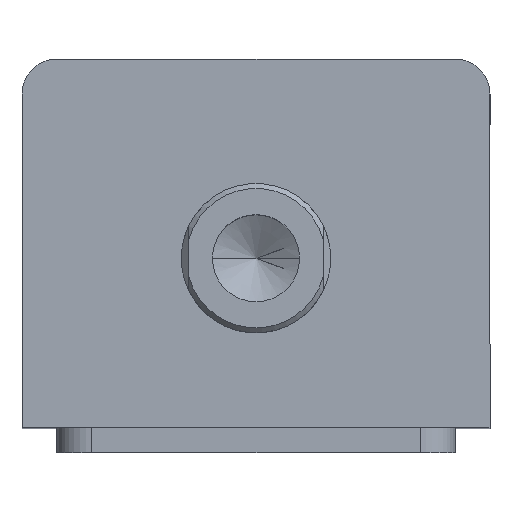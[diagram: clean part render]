
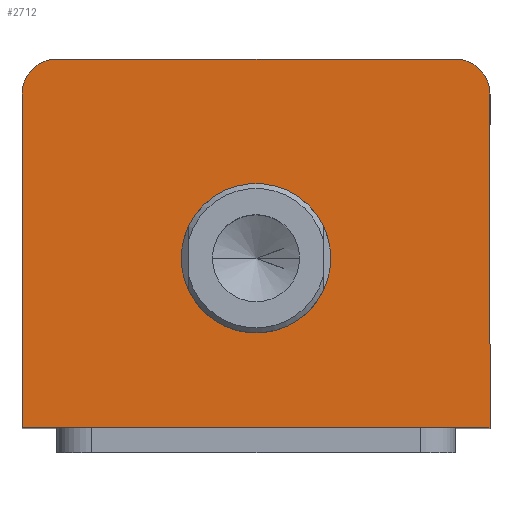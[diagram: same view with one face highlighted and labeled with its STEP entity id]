
A CAD part, top view. The second image highlights one B-rep face of the part: STEP entity #2712.
In plain terms, the highlighted planar face has unit normal (0, 0, 1).
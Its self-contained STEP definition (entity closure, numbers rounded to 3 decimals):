
#196 = EDGE_LOOP ( 'NONE', ( #2648, #2647 ) ) ;
#200 = EDGE_LOOP ( 'NONE', ( #2646, #2645, #2644, #2643, #2642, #2640 ) ) ;
#229 = VERTEX_POINT ( 'NONE', #747 ) ;
#245 = VERTEX_POINT ( 'NONE', #730 ) ;
#249 = VERTEX_POINT ( 'NONE', #726 ) ;
#252 = VERTEX_POINT ( 'NONE', #723 ) ;
#266 = VERTEX_POINT ( 'NONE', #708 ) ;
#289 = VERTEX_POINT ( 'NONE', #685 ) ;
#291 = VERTEX_POINT ( 'NONE', #683 ) ;
#300 = VERTEX_POINT ( 'NONE', #674 ) ;
#674 = CARTESIAN_POINT ( 'NONE',  ( 47., -37., 130. ) ) ;
#683 = CARTESIAN_POINT ( 'NONE',  ( -15., -3., 130. ) ) ;
#685 = CARTESIAN_POINT ( 'NONE',  ( 15., -3., 130. ) ) ;
#708 = CARTESIAN_POINT ( 'NONE',  ( 47., 30., 130. ) ) ;
#723 = CARTESIAN_POINT ( 'NONE',  ( 40., 37., 130. ) ) ;
#726 = CARTESIAN_POINT ( 'NONE',  ( -40., 37., 130. ) ) ;
#730 = CARTESIAN_POINT ( 'NONE',  ( -47., 30., 130. ) ) ;
#747 = CARTESIAN_POINT ( 'NONE',  ( -47., -37., 130. ) ) ;
#853 = LINE ( 'NONE', #1370, #856 ) ;
#856 = VECTOR ( 'NONE', #1363, 1000. ) ;
#898 = CIRCLE ( 'NONE', #1747, 15. ) ;
#967 = LINE ( 'NONE', #1332, #975 ) ;
#975 = VECTOR ( 'NONE', #1324, 1000. ) ;
#1009 = LINE ( 'NONE', #1266, #1012 ) ;
#1012 = VECTOR ( 'NONE', #1265, 1000. ) ;
#1051 = LINE ( 'NONE', #1181, #1054 ) ;
#1054 = VECTOR ( 'NONE', #1179, 1000. ) ;
#1135 = DIRECTION ( 'NONE',  ( 1., 0., 0. ) ) ;
#1137 = DIRECTION ( 'NONE',  ( 0., 0., 1. ) ) ;
#1138 = CARTESIAN_POINT ( 'NONE',  ( 40., 30., 130. ) ) ;
#1157 = DIRECTION ( 'NONE',  ( 1., 0., 0. ) ) ;
#1158 = DIRECTION ( 'NONE',  ( 0., 0., 1. ) ) ;
#1161 = CARTESIAN_POINT ( 'NONE',  ( -40., 30., 130. ) ) ;
#1172 = DIRECTION ( 'NONE',  ( 1., 0., 0. ) ) ;
#1173 = DIRECTION ( 'NONE',  ( 0., 0., 1. ) ) ;
#1174 = CARTESIAN_POINT ( 'NONE',  ( 0., -3., 130. ) ) ;
#1179 = DIRECTION ( 'NONE',  ( -1., 0., 0. ) ) ;
#1181 = CARTESIAN_POINT ( 'NONE',  ( -47., 37., 130. ) ) ;
#1265 = DIRECTION ( 'NONE',  ( 0., 1., 0. ) ) ;
#1266 = CARTESIAN_POINT ( 'NONE',  ( 47., 37., 130. ) ) ;
#1324 = DIRECTION ( 'NONE',  ( 1., 0., 0. ) ) ;
#1332 = CARTESIAN_POINT ( 'NONE',  ( -47., -37., 130. ) ) ;
#1363 = DIRECTION ( 'NONE',  ( 0., -1., 0. ) ) ;
#1370 = CARTESIAN_POINT ( 'NONE',  ( -47., 37., 130. ) ) ;
#1637 = AXIS2_PLACEMENT_3D ( 'NONE', #2357, #2325, #2323 ) ;
#1708 = AXIS2_PLACEMENT_3D ( 'NONE', #1138, #1137, #1135 ) ;
#1714 = AXIS2_PLACEMENT_3D ( 'NONE', #1161, #1158, #1157 ) ;
#1747 = AXIS2_PLACEMENT_3D ( 'NONE', #1174, #1173, #1172 ) ;
#1839 = EDGE_CURVE ( 'NONE', #245, #229, #853, .T. ) ;
#1865 = EDGE_CURVE ( 'NONE', #289, #291, #898, .T. ) ;
#1913 = EDGE_CURVE ( 'NONE', #229, #300, #967, .T. ) ;
#1933 = EDGE_CURVE ( 'NONE', #300, #266, #1009, .T. ) ;
#1958 = EDGE_CURVE ( 'NONE', #252, #249, #1051, .T. ) ;
#1963 = EDGE_CURVE ( 'NONE', #249, #245, #2759, .T. ) ;
#1967 = EDGE_CURVE ( 'NONE', #266, #252, #2762, .T. ) ;
#1978 = EDGE_CURVE ( 'NONE', #291, #289, #2775, .T. ) ;
#2323 = DIRECTION ( 'NONE',  ( 1., 0., 0. ) ) ;
#2325 = DIRECTION ( 'NONE',  ( 0., 0., 1. ) ) ;
#2347 = PLANE ( 'NONE',  #1637 ) ;
#2351 = DIRECTION ( 'NONE',  ( 1., 0., 0. ) ) ;
#2353 = DIRECTION ( 'NONE',  ( 0., 0., 1. ) ) ;
#2356 = CARTESIAN_POINT ( 'NONE',  ( 0., -3., 130. ) ) ;
#2357 = CARTESIAN_POINT ( 'NONE',  ( 0., 0., 130. ) ) ;
#2640 = ORIENTED_EDGE ( 'NONE', *, *, #1967, .T. ) ;
#2642 = ORIENTED_EDGE ( 'NONE', *, *, #1933, .T. ) ;
#2643 = ORIENTED_EDGE ( 'NONE', *, *, #1913, .T. ) ;
#2644 = ORIENTED_EDGE ( 'NONE', *, *, #1839, .T. ) ;
#2645 = ORIENTED_EDGE ( 'NONE', *, *, #1963, .T. ) ;
#2646 = ORIENTED_EDGE ( 'NONE', *, *, #1958, .T. ) ;
#2647 = ORIENTED_EDGE ( 'NONE', *, *, #1978, .F. ) ;
#2648 = ORIENTED_EDGE ( 'NONE', *, *, #1865, .F. ) ;
#2699 = AXIS2_PLACEMENT_3D ( 'NONE', #2356, #2353, #2351 ) ;
#2712 = ADVANCED_FACE ( 'NONE', ( #2826, #2830 ), #2347, .T. ) ;
#2759 = CIRCLE ( 'NONE', #1714, 7. ) ;
#2762 = CIRCLE ( 'NONE', #1708, 7. ) ;
#2775 = CIRCLE ( 'NONE', #2699, 15. ) ;
#2826 = FACE_BOUND ( 'NONE', #196, .T. ) ;
#2830 = FACE_OUTER_BOUND ( 'NONE', #200, .T. ) ;
